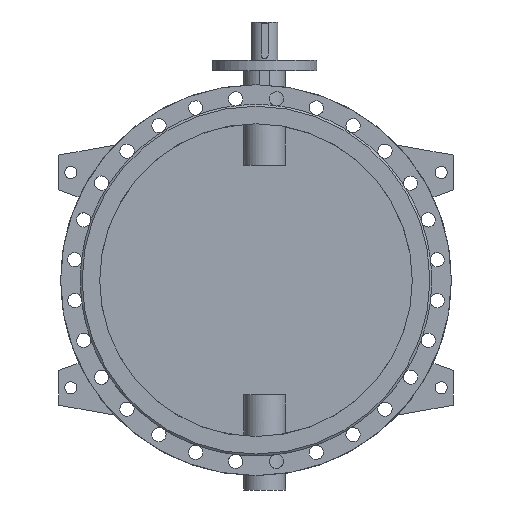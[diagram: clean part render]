
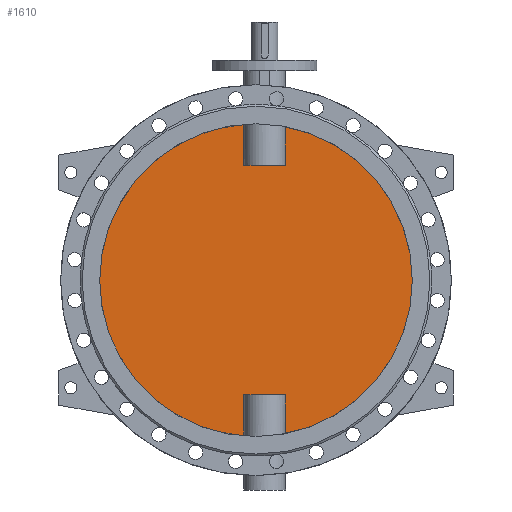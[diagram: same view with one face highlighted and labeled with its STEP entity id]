
A CAD part, front view. The second image highlights one B-rep face of the part: STEP entity #1610.
In plain terms, the highlighted planar face has unit normal (0, -1, 0).
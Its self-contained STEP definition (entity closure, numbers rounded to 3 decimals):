
#1610=ADVANCED_FACE('',(#3328),#3330,.F.);
#3328=FACE_BOUND('',#3329,.T.);
#3329=EDGE_LOOP('',(#4605,#4606,#4607,#4608,#4609,#4610,#4611,#4612));
#3330=PLANE('',#3331);
#3331=AXIS2_PLACEMENT_3D('',#3332,#3333,#3334);
#3332=CARTESIAN_POINT('',(0.,-5.,0.));
#3333=DIRECTION('',(0.,1.,0.));
#3334=DIRECTION('',(1.,0.,0.));
#4605=ORIENTED_EDGE('',*,*,#5254,.T.);
#4606=ORIENTED_EDGE('',*,*,#5260,.T.);
#4607=ORIENTED_EDGE('',*,*,#5261,.T.);
#4608=ORIENTED_EDGE('',*,*,#5262,.T.);
#4609=ORIENTED_EDGE('',*,*,#5256,.T.);
#4610=ORIENTED_EDGE('',*,*,#5263,.T.);
#4611=ORIENTED_EDGE('',*,*,#5264,.T.);
#4612=ORIENTED_EDGE('',*,*,#5265,.T.);
#5254=EDGE_CURVE('',#6301,#6302,#6303,.F.);
#5256=EDGE_CURVE('',#6306,#6304,#6307,.F.);
#5260=EDGE_CURVE('',#6302,#6313,#6314,.T.);
#5261=EDGE_CURVE('',#6313,#6315,#6316,.F.);
#5262=EDGE_CURVE('',#6315,#6306,#6317,.F.);
#5263=EDGE_CURVE('',#6304,#6318,#6319,.F.);
#5264=EDGE_CURVE('',#6318,#6320,#6321,.F.);
#5265=EDGE_CURVE('',#6320,#6301,#6322,.T.);
#6301=VERTEX_POINT('',#12353);
#6302=VERTEX_POINT('',#12354);
#6303=CIRCLE('',#12355,450.);
#6304=VERTEX_POINT('',#12359);
#6306=VERTEX_POINT('',#12449);
#6307=CIRCLE('',#12450,450.);
#6313=VERTEX_POINT('',#12570);
#6314=LINE('',#12571,#12572);
#6315=VERTEX_POINT('',#12574);
#6316=LINE('',#12575,#12576);
#6317=LINE('',#12578,#12579);
#6318=VERTEX_POINT('',#12581);
#6319=LINE('',#12582,#12583);
#6320=VERTEX_POINT('',#12585);
#6321=LINE('',#12586,#12587);
#6322=LINE('',#12589,#12590);
#12353=CARTESIAN_POINT('',(84.791,-5.,-441.939));
#12354=CARTESIAN_POINT('',(84.791,-5.,441.939));
#12355=AXIS2_PLACEMENT_3D('',#12356,#12357,#12358);
#12356=CARTESIAN_POINT('',(0.,-5.,0.));
#12357=DIRECTION('',(0.,1.,0.));
#12358=DIRECTION('',(0.188,0.,0.982));
#12359=CARTESIAN_POINT('',(-34.791,-5.,-448.653));
#12449=CARTESIAN_POINT('',(-34.791,-5.,448.653));
#12450=AXIS2_PLACEMENT_3D('',#12451,#12452,#12453);
#12451=CARTESIAN_POINT('',(0.,-5.,0.));
#12452=DIRECTION('',(0.,1.,0.));
#12453=DIRECTION('',(-0.077,0.,-0.997));
#12570=CARTESIAN_POINT('',(84.791,-5.,330.));
#12571=CARTESIAN_POINT('',(84.791,-5.,441.939));
#12572=VECTOR('',#12573,1.);
#12573=DIRECTION('',(0.,0.,-1.));
#12574=CARTESIAN_POINT('',(-34.791,-5.,330.));
#12575=CARTESIAN_POINT('',(-34.791,-5.,330.));
#12576=VECTOR('',#12577,1.);
#12577=DIRECTION('',(1.,0.,0.));
#12578=CARTESIAN_POINT('',(-34.791,-5.,448.653));
#12579=VECTOR('',#12580,1.);
#12580=DIRECTION('',(0.,0.,-1.));
#12581=CARTESIAN_POINT('',(-34.791,-5.,-330.));
#12582=CARTESIAN_POINT('',(-34.791,-5.,-330.));
#12583=VECTOR('',#12584,1.);
#12584=DIRECTION('',(0.,0.,-1.));
#12585=CARTESIAN_POINT('',(84.791,-5.,-330.));
#12586=CARTESIAN_POINT('',(84.791,-5.,-330.));
#12587=VECTOR('',#12588,1.);
#12588=DIRECTION('',(-1.,0.,0.));
#12589=CARTESIAN_POINT('',(84.791,-5.,-330.));
#12590=VECTOR('',#12591,1.);
#12591=DIRECTION('',(0.,0.,-1.));
